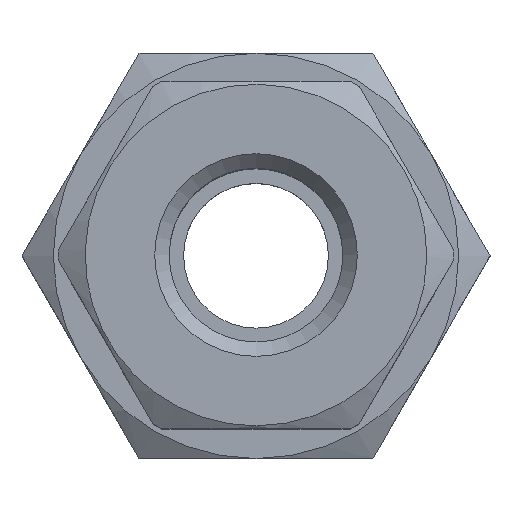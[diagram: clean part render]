
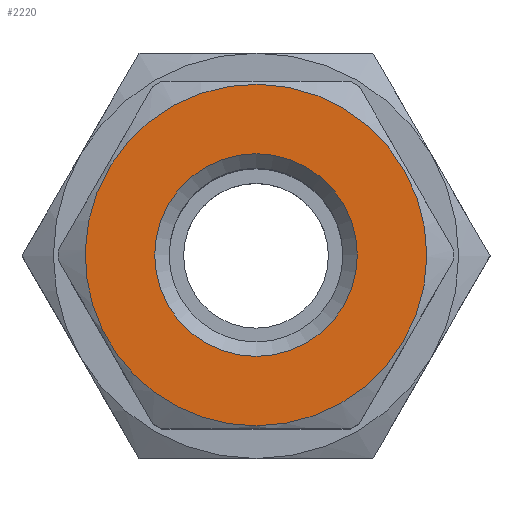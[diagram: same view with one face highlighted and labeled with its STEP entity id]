
A CAD part, top view. The second image highlights one B-rep face of the part: STEP entity #2220.
In plain terms, the highlighted planar face has unit normal (0, 0, 1).
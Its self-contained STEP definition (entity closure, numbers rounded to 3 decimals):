
#2220=ADVANCED_FACE('', (#2230,#2240), #2250, .T.);
#6670=AXIS2_PLACEMENT_3D('Ax2Pl3d', #6680, #6690, #6700);
#7350=AXIS2_PLACEMENT_3D('Ax2Pl3d', #7360, #7370, #7380);
#7390=AXIS2_PLACEMENT_3D('Ax2Pl3d', #7400, #7410, #7420);
#6680=CARTESIAN_POINT('HicPkt', (10.707,13.244,
37.93));
#10310=CARTESIAN_POINT('', (10.707,7.344,37.93));
#7360=CARTESIAN_POINT('HicPkt', (16.607,13.244,
37.93));
#7400=CARTESIAN_POINT('HicPkt', (10.707,13.244,
37.93));
#10490=CARTESIAN_POINT('', (10.707,16.744,37.93));
#11020=CIRCLE('Circle', #6670, 5.9);
#11080=CIRCLE('Circle', #7390, 3.5);
#6690=DIRECTION('Axis', (0.,0.,-1.));
#6700=DIRECTION('RefDirection', (-1.,-0.,0.));
#7370=DIRECTION('Axis', (0.,0.,1.));
#7380=DIRECTION('RefDirection', (1.,0.,-0.));
#7410=DIRECTION('Axis', (0.,0.,-1.));
#7420=DIRECTION('RefDirection', (-1.,-0.,0.));
#16400=EDGE_CURVE('', #16410, #16410, #11020, .T.);
#16770=EDGE_CURVE('', #16780, #16780, #11080, .T.);
#19750=EDGE_LOOP('Edge_loop', (#19760));
#19770=EDGE_LOOP('Edge_loop', (#19780));
#2240=FACE_BOUND('', #19770, .T.);
#2230=FACE_OUTER_BOUND('Face_outer_bound', #19750, .T.);
#19760=ORIENTED_EDGE('', *, *, #16400, .F.);
#19780=ORIENTED_EDGE('', *, *, #16770, .T.);
#2250=PLANE('Plane', #7350);
#16410=VERTEX_POINT('', #10310);
#16780=VERTEX_POINT('', #10490);
